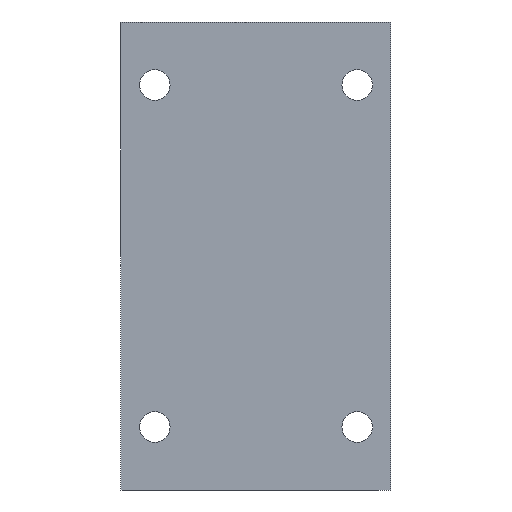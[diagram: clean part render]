
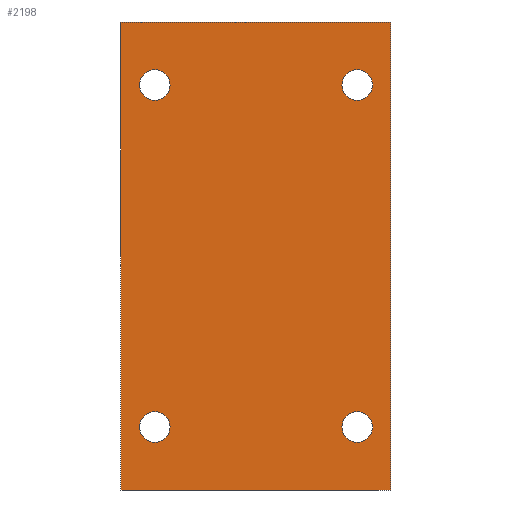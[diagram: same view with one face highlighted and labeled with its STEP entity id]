
A CAD part, front view. The second image highlights one B-rep face of the part: STEP entity #2198.
In plain terms, the highlighted planar face has unit normal (0, -1, 0).
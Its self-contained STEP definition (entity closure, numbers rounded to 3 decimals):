
#26 = EDGE_CURVE ( 'NONE', #797, #1349, #1820, .T. ) ;
#29 = CARTESIAN_POINT ( 'NONE',  ( -22.5, -25., 34.6 ) ) ;
#33 = FACE_BOUND ( 'NONE', #472, .T. ) ;
#38 = CARTESIAN_POINT ( 'NONE',  ( 22.5, -25., -41.4 ) ) ;
#115 = ORIENTED_EDGE ( 'NONE', *, *, #921, .F. ) ;
#152 = DIRECTION ( 'NONE',  ( 0., 0., -1. ) ) ;
#155 = DIRECTION ( 'NONE',  ( 0., 0., -1. ) ) ;
#158 = EDGE_CURVE ( 'NONE', #917, #554, #290, .T. ) ;
#163 = VERTEX_POINT ( 'NONE', #1447 ) ;
#190 = LINE ( 'NONE', #2342, #1915 ) ;
#272 = EDGE_CURVE ( 'NONE', #709, #2466, #1359, .T. ) ;
#275 = DIRECTION ( 'NONE',  ( 0., -1., 0. ) ) ;
#290 = CIRCLE ( 'NONE', #451, 3.4 ) ;
#329 = VECTOR ( 'NONE', #659, 1000. ) ;
#333 = ORIENTED_EDGE ( 'NONE', *, *, #1169, .F. ) ;
#342 = VERTEX_POINT ( 'NONE', #29 ) ;
#358 = EDGE_LOOP ( 'NONE', ( #1128, #1664 ) ) ;
#361 = EDGE_CURVE ( 'NONE', #1986, #1501, #2631, .T. ) ;
#424 = EDGE_LOOP ( 'NONE', ( #2941, #333 ) ) ;
#431 = CIRCLE ( 'NONE', #1132, 3.4 ) ;
#451 = AXIS2_PLACEMENT_3D ( 'NONE', #752, #1869, #976 ) ;
#472 = EDGE_LOOP ( 'NONE', ( #115, #2976 ) ) ;
#475 = CARTESIAN_POINT ( 'NONE',  ( 30., -25., 52. ) ) ;
#503 = ORIENTED_EDGE ( 'NONE', *, *, #158, .F. ) ;
#554 = VERTEX_POINT ( 'NONE', #3062 ) ;
#574 = DIRECTION ( 'NONE',  ( 0., 0., -1. ) ) ;
#618 = EDGE_LOOP ( 'NONE', ( #503, #2943 ) ) ;
#641 = EDGE_CURVE ( 'NONE', #1349, #2668, #2833, .T. ) ;
#659 = DIRECTION ( 'NONE',  ( 1., 0., 0. ) ) ;
#688 = CARTESIAN_POINT ( 'NONE',  ( 30., -25., 52. ) ) ;
#709 = VERTEX_POINT ( 'NONE', #2399 ) ;
#752 = CARTESIAN_POINT ( 'NONE',  ( 22.5, -25., -38. ) ) ;
#770 = ORIENTED_EDGE ( 'NONE', *, *, #26, .F. ) ;
#797 = VERTEX_POINT ( 'NONE', #2874 ) ;
#839 = CARTESIAN_POINT ( 'NONE',  ( -22.5, -25., 41.4 ) ) ;
#869 = CARTESIAN_POINT ( 'NONE',  ( 22.5, -25., 41.4 ) ) ;
#870 = ORIENTED_EDGE ( 'NONE', *, *, #2450, .T. ) ;
#907 = CARTESIAN_POINT ( 'NONE',  ( 22.5, -25., 38. ) ) ;
#917 = VERTEX_POINT ( 'NONE', #38 ) ;
#921 = EDGE_CURVE ( 'NONE', #342, #2291, #1226, .T. ) ;
#976 = DIRECTION ( 'NONE',  ( 0., 0., -1. ) ) ;
#989 = EDGE_CURVE ( 'NONE', #1501, #1986, #1873, .T. ) ;
#1010 = FACE_OUTER_BOUND ( 'NONE', #1274, .T. ) ;
#1023 = AXIS2_PLACEMENT_3D ( 'NONE', #1488, #2732, #2788 ) ;
#1039 = CARTESIAN_POINT ( 'NONE',  ( 22.5, -25., 38. ) ) ;
#1087 = AXIS2_PLACEMENT_3D ( 'NONE', #2974, #2218, #1515 ) ;
#1128 = ORIENTED_EDGE ( 'NONE', *, *, #989, .F. ) ;
#1132 = AXIS2_PLACEMENT_3D ( 'NONE', #1039, #1990, #574 ) ;
#1169 = EDGE_CURVE ( 'NONE', #2466, #709, #431, .T. ) ;
#1195 = PLANE ( 'NONE',  #3087 ) ;
#1226 = CIRCLE ( 'NONE', #1023, 3.4 ) ;
#1274 = EDGE_LOOP ( 'NONE', ( #2286, #3016, #770, #870 ) ) ;
#1349 = VERTEX_POINT ( 'NONE', #475 ) ;
#1359 = CIRCLE ( 'NONE', #1807, 3.4 ) ;
#1419 = EDGE_CURVE ( 'NONE', #554, #917, #2840, .T. ) ;
#1428 = AXIS2_PLACEMENT_3D ( 'NONE', #1590, #2308, #155 ) ;
#1447 = CARTESIAN_POINT ( 'NONE',  ( -30., -25., -52. ) ) ;
#1469 = AXIS2_PLACEMENT_3D ( 'NONE', #1914, #2374, #3109 ) ;
#1488 = CARTESIAN_POINT ( 'NONE',  ( -22.5, -25., 38. ) ) ;
#1501 = VERTEX_POINT ( 'NONE', #2748 ) ;
#1515 = DIRECTION ( 'NONE',  ( 0., 0., -1. ) ) ;
#1529 = CARTESIAN_POINT ( 'NONE',  ( 30., -25., -52. ) ) ;
#1590 = CARTESIAN_POINT ( 'NONE',  ( -22.5, -25., -38. ) ) ;
#1664 = ORIENTED_EDGE ( 'NONE', *, *, #361, .F. ) ;
#1694 = LINE ( 'NONE', #2170, #2318 ) ;
#1724 = FACE_BOUND ( 'NONE', #618, .T. ) ;
#1807 = AXIS2_PLACEMENT_3D ( 'NONE', #907, #1870, #152 ) ;
#1820 = LINE ( 'NONE', #2261, #329 ) ;
#1823 = VECTOR ( 'NONE', #3044, 1000. ) ;
#1869 = DIRECTION ( 'NONE',  ( 0., -1., 0. ) ) ;
#1870 = DIRECTION ( 'NONE',  ( 0., -1., 0. ) ) ;
#1873 = CIRCLE ( 'NONE', #1428, 3.4 ) ;
#1914 = CARTESIAN_POINT ( 'NONE',  ( -22.5, -25., -38. ) ) ;
#1915 = VECTOR ( 'NONE', #2539, 1000. ) ;
#1937 = CARTESIAN_POINT ( 'NONE',  ( 22.5, -25., -38. ) ) ;
#1986 = VERTEX_POINT ( 'NONE', #3021 ) ;
#1990 = DIRECTION ( 'NONE',  ( 0., -1., 0. ) ) ;
#2170 = CARTESIAN_POINT ( 'NONE',  ( -30., -25., -52. ) ) ;
#2190 = FACE_BOUND ( 'NONE', #358, .T. ) ;
#2198 = ADVANCED_FACE ( 'NONE', ( #2424, #2190, #33, #1724, #1010 ), #1195, .F. ) ;
#2218 = DIRECTION ( 'NONE',  ( 0., -1., 0. ) ) ;
#2232 = EDGE_CURVE ( 'NONE', #2291, #342, #2936, .T. ) ;
#2261 = CARTESIAN_POINT ( 'NONE',  ( -30., -25., 52. ) ) ;
#2286 = ORIENTED_EDGE ( 'NONE', *, *, #2542, .T. ) ;
#2291 = VERTEX_POINT ( 'NONE', #839 ) ;
#2308 = DIRECTION ( 'NONE',  ( 0., -1., 0. ) ) ;
#2318 = VECTOR ( 'NONE', #2407, 1000. ) ;
#2342 = CARTESIAN_POINT ( 'NONE',  ( -30., -25., 52. ) ) ;
#2374 = DIRECTION ( 'NONE',  ( 0., -1., 0. ) ) ;
#2399 = CARTESIAN_POINT ( 'NONE',  ( 22.5, -25., 34.6 ) ) ;
#2407 = DIRECTION ( 'NONE',  ( 1., 0., 0. ) ) ;
#2424 = FACE_BOUND ( 'NONE', #424, .T. ) ;
#2450 = EDGE_CURVE ( 'NONE', #797, #163, #190, .T. ) ;
#2466 = VERTEX_POINT ( 'NONE', #869 ) ;
#2539 = DIRECTION ( 'NONE',  ( 0., 0., -1. ) ) ;
#2542 = EDGE_CURVE ( 'NONE', #163, #2668, #1694, .T. ) ;
#2631 = CIRCLE ( 'NONE', #1469, 3.4 ) ;
#2668 = VERTEX_POINT ( 'NONE', #1529 ) ;
#2732 = DIRECTION ( 'NONE',  ( 0., -1., 0. ) ) ;
#2748 = CARTESIAN_POINT ( 'NONE',  ( -22.5, -25., -41.4 ) ) ;
#2788 = DIRECTION ( 'NONE',  ( 0., 0., -1. ) ) ;
#2833 = LINE ( 'NONE', #688, #1823 ) ;
#2840 = CIRCLE ( 'NONE', #3082, 3.4 ) ;
#2870 = DIRECTION ( 'NONE',  ( 0., 0., 1. ) ) ;
#2873 = DIRECTION ( 'NONE',  ( 0., 0., -1. ) ) ;
#2874 = CARTESIAN_POINT ( 'NONE',  ( -30., -25., 52. ) ) ;
#2883 = DIRECTION ( 'NONE',  ( 0., 1., 0. ) ) ;
#2936 = CIRCLE ( 'NONE', #1087, 3.4 ) ;
#2941 = ORIENTED_EDGE ( 'NONE', *, *, #272, .F. ) ;
#2943 = ORIENTED_EDGE ( 'NONE', *, *, #1419, .F. ) ;
#2974 = CARTESIAN_POINT ( 'NONE',  ( -22.5, -25., 38. ) ) ;
#2976 = ORIENTED_EDGE ( 'NONE', *, *, #2232, .F. ) ;
#3016 = ORIENTED_EDGE ( 'NONE', *, *, #641, .F. ) ;
#3021 = CARTESIAN_POINT ( 'NONE',  ( -22.5, -25., -34.6 ) ) ;
#3044 = DIRECTION ( 'NONE',  ( 0., 0., -1. ) ) ;
#3062 = CARTESIAN_POINT ( 'NONE',  ( 22.5, -25., -34.6 ) ) ;
#3082 = AXIS2_PLACEMENT_3D ( 'NONE', #1937, #275, #2873 ) ;
#3087 = AXIS2_PLACEMENT_3D ( 'NONE', #3100, #2883, #2870 ) ;
#3100 = CARTESIAN_POINT ( 'NONE',  ( -30., -25., 52. ) ) ;
#3109 = DIRECTION ( 'NONE',  ( 0., 0., -1. ) ) ;
